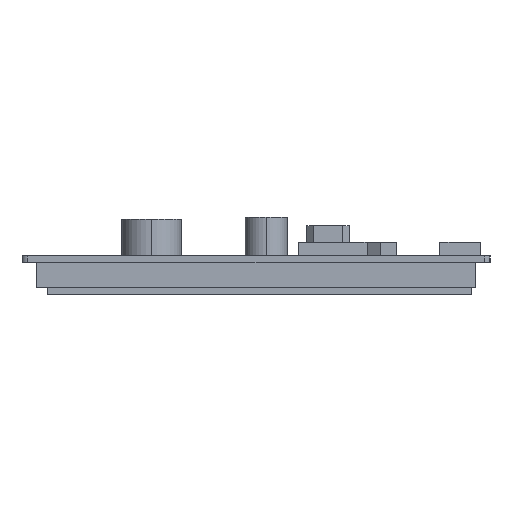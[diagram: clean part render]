
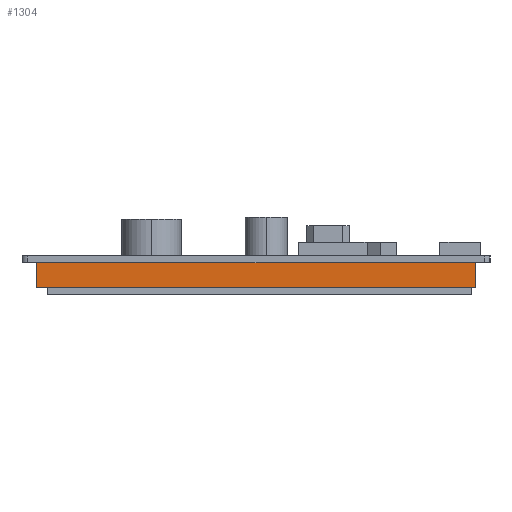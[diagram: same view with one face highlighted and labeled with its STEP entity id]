
A CAD part, left-side view. The second image highlights one B-rep face of the part: STEP entity #1304.
In plain terms, the highlighted planar face has unit normal (-1, 0, 0).
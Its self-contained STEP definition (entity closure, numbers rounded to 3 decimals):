
#310=DIRECTION('',(0.,1.,0.));
#311=VECTOR('',#310,65.9);
#312=CARTESIAN_POINT('',(1094.079,448.736,-1.));
#313=LINE('',#312,#311);
#414=DIRECTION('',(0.,0.,-1.));
#415=VECTOR('',#414,3.75);
#416=CARTESIAN_POINT('',(1094.079,448.736,-1.));
#417=LINE('',#416,#415);
#418=DIRECTION('',(0.,1.,0.));
#419=VECTOR('',#418,65.9);
#420=CARTESIAN_POINT('',(1094.079,448.736,-4.75));
#421=LINE('',#420,#419);
#438=DIRECTION('',(0.,0.,-1.));
#439=VECTOR('',#438,3.75);
#440=CARTESIAN_POINT('',(1094.079,514.636,-1.));
#441=LINE('',#440,#439);
#822=CARTESIAN_POINT('',(1094.079,448.736,-1.));
#823=CARTESIAN_POINT('',(1094.079,514.636,-1.));
#824=VERTEX_POINT('',#822);
#825=VERTEX_POINT('',#823);
#846=CARTESIAN_POINT('',(1094.079,448.736,-4.75));
#847=VERTEX_POINT('',#846);
#848=CARTESIAN_POINT('',(1094.079,514.636,-4.75));
#849=VERTEX_POINT('',#848);
#1290=CARTESIAN_POINT('',(1094.079,448.736,-1.));
#1291=DIRECTION('',(-1.,0.,0.));
#1292=DIRECTION('',(0.,1.,0.));
#1293=AXIS2_PLACEMENT_3D('',#1290,#1291,#1292);
#1294=PLANE('',#1293);
#1295=ORIENTED_EDGE('',*,*,#1241,.F.);
#1297=ORIENTED_EDGE('',*,*,#1296,.T.);
#1299=ORIENTED_EDGE('',*,*,#1298,.T.);
#1301=ORIENTED_EDGE('',*,*,#1300,.F.);
#1302=EDGE_LOOP('',(#1295,#1297,#1299,#1301));
#1303=FACE_OUTER_BOUND('',#1302,.F.);
#1241=EDGE_CURVE('',#824,#825,#313,.T.);
#1296=EDGE_CURVE('',#824,#847,#417,.T.);
#1298=EDGE_CURVE('',#847,#849,#421,.T.);
#1300=EDGE_CURVE('',#825,#849,#441,.T.);
#1304=ADVANCED_FACE('',(#1303),#1294,.T.);
